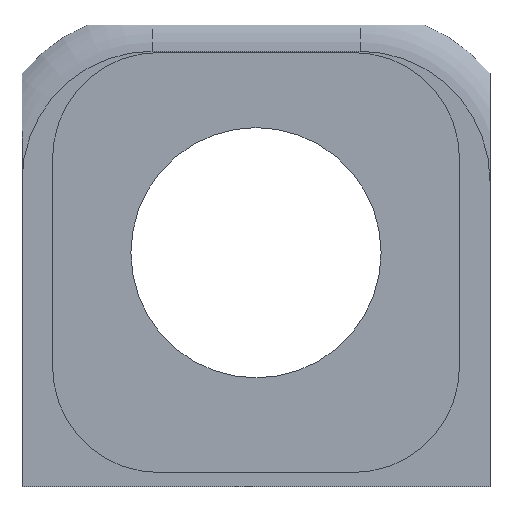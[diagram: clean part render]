
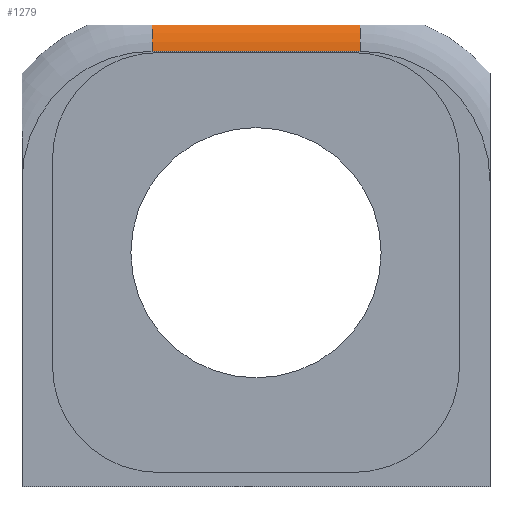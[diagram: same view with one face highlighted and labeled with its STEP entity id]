
A CAD part, front view. The second image highlights one B-rep face of the part: STEP entity #1279.
In plain terms, the highlighted cylindrical face has radius 8 mm (diameter 16 mm), a partial arc.
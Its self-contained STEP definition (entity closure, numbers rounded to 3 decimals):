
#32 = PLANE('',#33);
#33 = AXIS2_PLACEMENT_3D('',#34,#35,#36);
#34 = CARTESIAN_POINT('',(-44.,-13.2,-75.));
#35 = DIRECTION('',(0.,1.,0.));
#36 = DIRECTION('',(0.,-0.,1.));
#83 = VERTEX_POINT('',#84);
#84 = CARTESIAN_POINT('',(-16.,-13.2,67.));
#103 = TOROIDAL_SURFACE('',#104,20.,8.);
#104 = AXIS2_PLACEMENT_3D('',#105,#106,#107);
#105 = CARTESIAN_POINT('',(-16.,-5.2,47.));
#106 = DIRECTION('',(0.,1.,0.));
#107 = DIRECTION('',(0.,0.,1.));
#115 = EDGE_CURVE('',#116,#83,#118,.T.);
#116 = VERTEX_POINT('',#117);
#117 = CARTESIAN_POINT('',(16.,-13.2,67.));
#118 = SURFACE_CURVE('',#119,(#123,#130),.PCURVE_S1.);
#119 = LINE('',#120,#121);
#120 = CARTESIAN_POINT('',(16.,-13.2,67.));
#121 = VECTOR('',#122,1.);
#122 = DIRECTION('',(-1.,-0.,-0.));
#123 = PCURVE('',#32,#124);
#124 = DEFINITIONAL_REPRESENTATION('',(#125),#129);
#125 = LINE('',#126,#127);
#126 = CARTESIAN_POINT('',(142.,60.));
#127 = VECTOR('',#128,1.);
#128 = DIRECTION('',(0.,-1.));
#129 = ( GEOMETRIC_REPRESENTATION_CONTEXT(2) 
PARAMETRIC_REPRESENTATION_CONTEXT() REPRESENTATION_CONTEXT('2D SPACE',''
  ) );
#130 = PCURVE('',#131,#136);
#131 = CYLINDRICAL_SURFACE('',#132,8.);
#132 = AXIS2_PLACEMENT_3D('',#133,#134,#135);
#133 = CARTESIAN_POINT('',(16.,-5.2,67.));
#134 = DIRECTION('',(-1.,-0.,-0.));
#135 = DIRECTION('',(0.,-1.,0.));
#136 = DEFINITIONAL_REPRESENTATION('',(#137),#141);
#137 = LINE('',#138,#139);
#138 = CARTESIAN_POINT('',(0.,0.));
#139 = VECTOR('',#140,1.);
#140 = DIRECTION('',(0.,1.));
#141 = ( GEOMETRIC_REPRESENTATION_CONTEXT(2) 
PARAMETRIC_REPRESENTATION_CONTEXT() REPRESENTATION_CONTEXT('2D SPACE',''
  ) );
#164 = TOROIDAL_SURFACE('',#165,20.,8.);
#165 = AXIS2_PLACEMENT_3D('',#166,#167,#168);
#166 = CARTESIAN_POINT('',(16.,-5.2,47.));
#167 = DIRECTION('',(0.,1.,0.));
#168 = DIRECTION('',(1.,-0.,0.));
#1158 = VERTEX_POINT('',#1159);
#1159 = CARTESIAN_POINT('',(16.,-12.128,71.));
#1207 = PLANE('',#1208);
#1208 = AXIS2_PLACEMENT_3D('',#1209,#1210,#1211);
#1209 = CARTESIAN_POINT('',(-36.,-15.,71.));
#1210 = DIRECTION('',(0.,0.,1.));
#1211 = DIRECTION('',(1.,0.,0.));
#1236 = EDGE_CURVE('',#116,#1158,#1237,.T.);
#1237 = SURFACE_CURVE('',#1238,(#1243,#1249),.PCURVE_S1.);
#1238 = CIRCLE('',#1239,8.);
#1239 = AXIS2_PLACEMENT_3D('',#1240,#1241,#1242);
#1240 = CARTESIAN_POINT('',(16.,-5.2,67.));
#1241 = DIRECTION('',(-1.,0.,0.));
#1242 = DIRECTION('',(0.,0.,1.));
#1243 = PCURVE('',#164,#1244);
#1244 = DEFINITIONAL_REPRESENTATION('',(#1245),#1248);
#1245 = B_SPLINE_CURVE_WITH_KNOTS('',1,(#1246,#1247),.UNSPECIFIED.,.F.,
  .F.,(2,2),(4.712,6.283),.PIECEWISE_BEZIER_KNOTS.);
#1246 = CARTESIAN_POINT('',(4.712,4.712));
#1247 = CARTESIAN_POINT('',(4.712,6.283));
#1248 = ( GEOMETRIC_REPRESENTATION_CONTEXT(2) 
PARAMETRIC_REPRESENTATION_CONTEXT() REPRESENTATION_CONTEXT('2D SPACE',''
  ) );
#1249 = PCURVE('',#131,#1250);
#1250 = DEFINITIONAL_REPRESENTATION('',(#1251),#1254);
#1251 = B_SPLINE_CURVE_WITH_KNOTS('',1,(#1252,#1253),.UNSPECIFIED.,.F.,
  .F.,(2,2),(4.712,6.283),.PIECEWISE_BEZIER_KNOTS.);
#1252 = CARTESIAN_POINT('',(0.,0.));
#1253 = CARTESIAN_POINT('',(1.571,0.));
#1254 = ( GEOMETRIC_REPRESENTATION_CONTEXT(2) 
PARAMETRIC_REPRESENTATION_CONTEXT() REPRESENTATION_CONTEXT('2D SPACE',''
  ) );
#1279 = ADVANCED_FACE('',(#1280),#131,.T.);
#1280 = FACE_BOUND('',#1281,.T.);
#1281 = EDGE_LOOP('',(#1282,#1283,#1284,#1305));
#1282 = ORIENTED_EDGE('',*,*,#115,.F.);
#1283 = ORIENTED_EDGE('',*,*,#1236,.T.);
#1284 = ORIENTED_EDGE('',*,*,#1285,.T.);
#1285 = EDGE_CURVE('',#1158,#1286,#1288,.T.);
#1286 = VERTEX_POINT('',#1287);
#1287 = CARTESIAN_POINT('',(-16.,-12.128,71.));
#1288 = SURFACE_CURVE('',#1289,(#1293,#1299),.PCURVE_S1.);
#1289 = LINE('',#1290,#1291);
#1290 = CARTESIAN_POINT('',(16.,-12.128,71.));
#1291 = VECTOR('',#1292,1.);
#1292 = DIRECTION('',(-1.,-0.,-0.));
#1293 = PCURVE('',#131,#1294);
#1294 = DEFINITIONAL_REPRESENTATION('',(#1295),#1298);
#1295 = B_SPLINE_CURVE_WITH_KNOTS('',1,(#1296,#1297),.UNSPECIFIED.,.F.,
  .F.,(2,2),(0.,32.),.PIECEWISE_BEZIER_KNOTS.);
#1296 = CARTESIAN_POINT('',(0.524,0.));
#1297 = CARTESIAN_POINT('',(0.524,32.));
#1298 = ( GEOMETRIC_REPRESENTATION_CONTEXT(2) 
PARAMETRIC_REPRESENTATION_CONTEXT() REPRESENTATION_CONTEXT('2D SPACE',''
  ) );
#1299 = PCURVE('',#1207,#1300);
#1300 = DEFINITIONAL_REPRESENTATION('',(#1301),#1304);
#1301 = B_SPLINE_CURVE_WITH_KNOTS('',1,(#1302,#1303),.UNSPECIFIED.,.F.,
  .F.,(2,2),(0.,32.),.PIECEWISE_BEZIER_KNOTS.);
#1302 = CARTESIAN_POINT('',(52.,2.872));
#1303 = CARTESIAN_POINT('',(20.,2.872));
#1304 = ( GEOMETRIC_REPRESENTATION_CONTEXT(2) 
PARAMETRIC_REPRESENTATION_CONTEXT() REPRESENTATION_CONTEXT('2D SPACE',''
  ) );
#1305 = ORIENTED_EDGE('',*,*,#1306,.F.);
#1306 = EDGE_CURVE('',#83,#1286,#1307,.T.);
#1307 = SURFACE_CURVE('',#1308,(#1313,#1319),.PCURVE_S1.);
#1308 = CIRCLE('',#1309,8.);
#1309 = AXIS2_PLACEMENT_3D('',#1310,#1311,#1312);
#1310 = CARTESIAN_POINT('',(-16.,-5.2,67.));
#1311 = DIRECTION('',(-1.,0.,0.));
#1312 = DIRECTION('',(0.,-1.,0.));
#1313 = PCURVE('',#131,#1314);
#1314 = DEFINITIONAL_REPRESENTATION('',(#1315),#1318);
#1315 = B_SPLINE_CURVE_WITH_KNOTS('',1,(#1316,#1317),.UNSPECIFIED.,.F.,
  .F.,(2,2),(0.,1.571),.PIECEWISE_BEZIER_KNOTS.);
#1316 = CARTESIAN_POINT('',(0.,32.));
#1317 = CARTESIAN_POINT('',(1.571,32.));
#1318 = ( GEOMETRIC_REPRESENTATION_CONTEXT(2) 
PARAMETRIC_REPRESENTATION_CONTEXT() REPRESENTATION_CONTEXT('2D SPACE',''
  ) );
#1319 = PCURVE('',#103,#1320);
#1320 = DEFINITIONAL_REPRESENTATION('',(#1321),#1324);
#1321 = B_SPLINE_CURVE_WITH_KNOTS('',1,(#1322,#1323),.UNSPECIFIED.,.F.,
  .F.,(2,2),(0.,1.571),.PIECEWISE_BEZIER_KNOTS.);
#1322 = CARTESIAN_POINT('',(6.283,4.712));
#1323 = CARTESIAN_POINT('',(6.283,6.283));
#1324 = ( GEOMETRIC_REPRESENTATION_CONTEXT(2) 
PARAMETRIC_REPRESENTATION_CONTEXT() REPRESENTATION_CONTEXT('2D SPACE',''
  ) );
